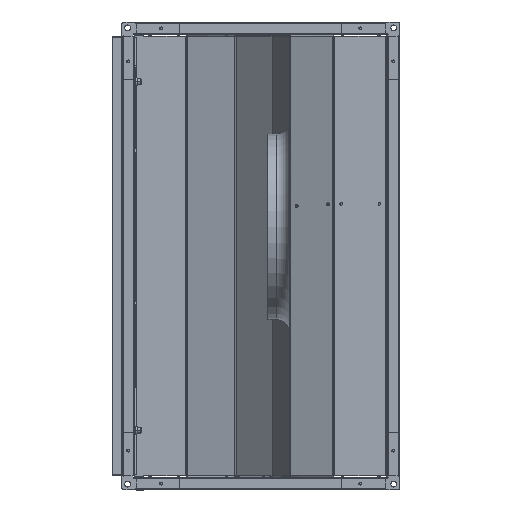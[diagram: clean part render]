
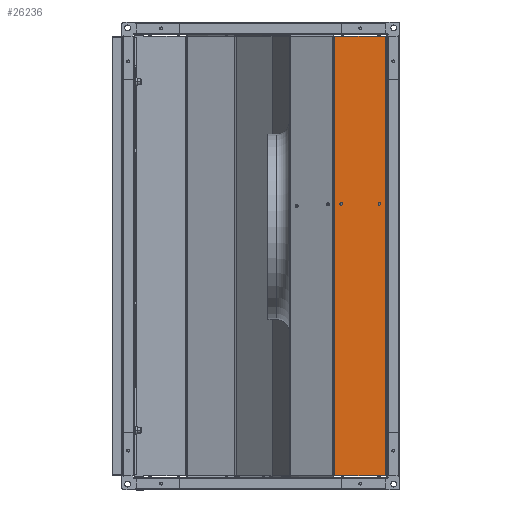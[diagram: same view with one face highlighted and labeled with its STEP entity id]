
A CAD part, left-side view. The second image highlights one B-rep face of the part: STEP entity #26236.
In plain terms, the highlighted planar face has unit normal (-1, 0, 0).
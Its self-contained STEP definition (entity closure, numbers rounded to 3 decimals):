
#4196 = CARTESIAN_POINT ( 'NONE',  ( -343.5, 83.27, 346.7 ) ) ;
#4398 = CARTESIAN_POINT ( 'NONE',  ( -343.5, 12.8, 80.122 ) ) ;
#4400 = CARTESIAN_POINT ( 'NONE',  ( -343.5, 12.8, 84.322 ) ) ;
#4406 = CARTESIAN_POINT ( 'NONE',  ( -343.5, 72.8, 84.322 ) ) ;
#4408 = CARTESIAN_POINT ( 'NONE',  ( -343.5, 72.8, 80.122 ) ) ;
#4434 = CARTESIAN_POINT ( 'NONE',  ( -343.5, 3.3, 346.7 ) ) ;
#4468 = CARTESIAN_POINT ( 'NONE',  ( -343.5, 3.3, -346.7 ) ) ;
#10308 = FACE_BOUND ( 'NONE', #24307, .T. ) ;
#10312 = FACE_BOUND ( 'NONE', #24075, .T. ) ;
#10323 = FACE_OUTER_BOUND ( 'NONE', #24274, .T. ) ;
#10856 = EDGE_CURVE ( 'NONE', #15700, #20799, #28940, .T. ) ;
#10862 = EDGE_CURVE ( 'NONE', #20675, #20679, #28947, .T. ) ;
#10871 = EDGE_CURVE ( 'NONE', #20731, #20255, #28952, .T. ) ;
#10879 = EDGE_CURVE ( 'NONE', #20659, #20663, #28958, .T. ) ;
#10933 = EDGE_CURVE ( 'NONE', #20799, #20731, #28993, .T. ) ;
#10969 = EDGE_CURVE ( 'NONE', #20663, #20659, #29044, .T. ) ;
#10995 = EDGE_CURVE ( 'NONE', #20679, #20675, #29074, .T. ) ;
#11038 = EDGE_CURVE ( 'NONE', #20255, #15700, #29126, .T. ) ;
#15700 = VERTEX_POINT ( 'NONE', #35758 ) ;
#17001 = DIRECTION ( 'NONE',  ( -1., 0., 0. ) ) ;
#17006 = CARTESIAN_POINT ( 'NONE',  ( -343.5, 1., 349. ) ) ;
#17007 = PLANE ( 'NONE',  #35270 ) ;
#17008 = DIRECTION ( 'NONE',  ( 0., 0., 1. ) ) ;
#18613 = CARTESIAN_POINT ( 'NONE',  ( -343.5, 3.3, -347.293 ) ) ;
#18654 = DIRECTION ( 'NONE',  ( -1., 0., 0. ) ) ;
#18659 = DIRECTION ( 'NONE',  ( 0., 0., 1. ) ) ;
#18666 = CARTESIAN_POINT ( 'NONE',  ( -343.5, 72.8, 82.222 ) ) ;
#18692 = DIRECTION ( 'NONE',  ( 0., 0., 1. ) ) ;
#18700 = ORIENTED_EDGE ( 'NONE', *, *, #10856, .T. ) ;
#18702 = ORIENTED_EDGE ( 'NONE', *, *, #10933, .T. ) ;
#18704 = ORIENTED_EDGE ( 'NONE', *, *, #10871, .T. ) ;
#18706 = ORIENTED_EDGE ( 'NONE', *, *, #11038, .T. ) ;
#18717 = ORIENTED_EDGE ( 'NONE', *, *, #10969, .F. ) ;
#18719 = ORIENTED_EDGE ( 'NONE', *, *, #10879, .F. ) ;
#18721 = ORIENTED_EDGE ( 'NONE', *, *, #10862, .F. ) ;
#18723 = ORIENTED_EDGE ( 'NONE', *, *, #10995, .F. ) ;
#18757 = DIRECTION ( 'NONE',  ( 0., 0., 1. ) ) ;
#18773 = CARTESIAN_POINT ( 'NONE',  ( -343.5, 12.8, 82.222 ) ) ;
#19078 = DIRECTION ( 'NONE',  ( 0., 1., 0. ) ) ;
#19121 = CARTESIAN_POINT ( 'NONE',  ( -343.5, 83.27, 349. ) ) ;
#19191 = DIRECTION ( 'NONE',  ( 0., 0., -1. ) ) ;
#19193 = DIRECTION ( 'NONE',  ( -1., 0., 0. ) ) ;
#19202 = CARTESIAN_POINT ( 'NONE',  ( -343.5, 12.8, 82.222 ) ) ;
#19224 = CARTESIAN_POINT ( 'NONE',  ( -343.5, 83.751, -346.7 ) ) ;
#19226 = DIRECTION ( 'NONE',  ( 0., -1., 0. ) ) ;
#19236 = CARTESIAN_POINT ( 'NONE',  ( -343.5, 2.707, 346.7 ) ) ;
#19250 = DIRECTION ( 'NONE',  ( 0., 0., 1. ) ) ;
#19260 = DIRECTION ( 'NONE',  ( 0., 0., 1. ) ) ;
#19263 = DIRECTION ( 'NONE',  ( -1., 0., 0. ) ) ;
#19290 = DIRECTION ( 'NONE',  ( -1., 0., 0. ) ) ;
#19322 = CARTESIAN_POINT ( 'NONE',  ( -343.5, 72.8, 82.222 ) ) ;
#20255 = VERTEX_POINT ( 'NONE', #4196 ) ;
#20659 = VERTEX_POINT ( 'NONE', #4398 ) ;
#20663 = VERTEX_POINT ( 'NONE', #4400 ) ;
#20675 = VERTEX_POINT ( 'NONE', #4406 ) ;
#20679 = VERTEX_POINT ( 'NONE', #4408 ) ;
#20731 = VERTEX_POINT ( 'NONE', #4434 ) ;
#20799 = VERTEX_POINT ( 'NONE', #4468 ) ;
#24075 = EDGE_LOOP ( 'NONE', ( #18717, #18719 ) ) ;
#24274 = EDGE_LOOP ( 'NONE', ( #18700, #18702, #18704, #18706 ) ) ;
#24307 = EDGE_LOOP ( 'NONE', ( #18721, #18723 ) ) ;
#26236 = ADVANCED_FACE ( 'NONE', ( #10312, #10308, #10323 ), #17007, .T. ) ;
#28940 = LINE ( 'NONE', #19224, #28945 ) ;
#28945 = VECTOR ( 'NONE', #19226, 1000. ) ;
#28947 = CIRCLE ( 'NONE', #30384, 2.1 ) ;
#28952 = LINE ( 'NONE', #19236, #28955 ) ;
#28955 = VECTOR ( 'NONE', #19078, 1000. ) ;
#28958 = CIRCLE ( 'NONE', #30452, 2.1 ) ;
#28993 = LINE ( 'NONE', #18613, #29000 ) ;
#29000 = VECTOR ( 'NONE', #18692, 1000. ) ;
#29044 = CIRCLE ( 'NONE', #30475, 2.1 ) ;
#29074 = CIRCLE ( 'NONE', #30438, 2.1 ) ;
#29126 = LINE ( 'NONE', #19121, #29134 ) ;
#29134 = VECTOR ( 'NONE', #19191, 1000. ) ;
#30384 = AXIS2_PLACEMENT_3D ( 'NONE', #18666, #19263, #19260 ) ;
#30438 = AXIS2_PLACEMENT_3D ( 'NONE', #19322, #19290, #19250 ) ;
#30452 = AXIS2_PLACEMENT_3D ( 'NONE', #18773, #19193, #18757 ) ;
#30475 = AXIS2_PLACEMENT_3D ( 'NONE', #19202, #18654, #18659 ) ;
#35270 = AXIS2_PLACEMENT_3D ( 'NONE', #17006, #17001, #17008 ) ;
#35758 = CARTESIAN_POINT ( 'NONE',  ( -343.5, 83.27, -346.7 ) ) ;
